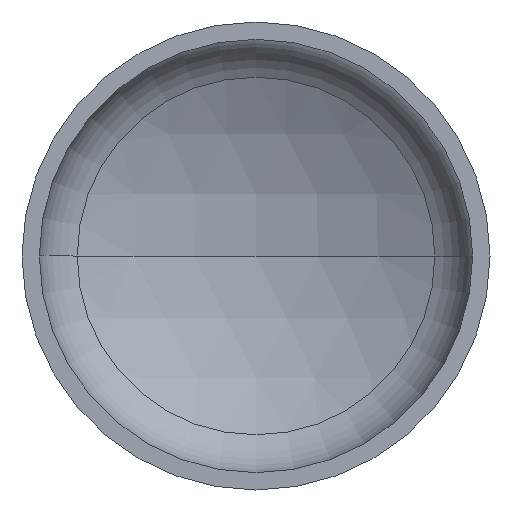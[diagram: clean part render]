
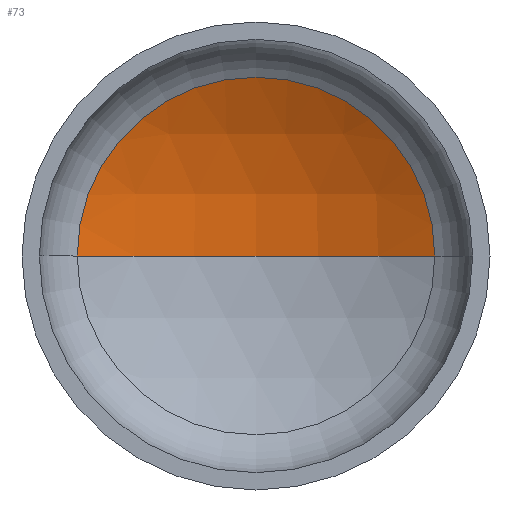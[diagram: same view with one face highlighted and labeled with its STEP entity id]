
A CAD part, front view. The second image highlights one B-rep face of the part: STEP entity #73.
In plain terms, the highlighted spherical face has radius 800 mm.
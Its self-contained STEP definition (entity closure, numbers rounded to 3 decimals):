
#14 = EDGE_LOOP ( 'NONE', ( #122, #64, #99 ) ) ;
#23 = VERTEX_POINT ( 'NONE', #352 ) ;
#25 = DIRECTION ( 'NONE',  ( 1., 0., 0. ) ) ;
#29 = AXIS2_PLACEMENT_3D ( 'NONE', #187, #199, #200 ) ;
#32 = AXIS2_PLACEMENT_3D ( 'NONE', #296, #149, #402 ) ;
#34 = AXIS2_PLACEMENT_3D ( 'NONE', #269, #338, #25 ) ;
#51 = VERTEX_POINT ( 'NONE', #282 ) ;
#63 = AXIS2_PLACEMENT_3D ( 'NONE', #242, #258, #224 ) ;
#64 = ORIENTED_EDGE ( 'NONE', *, *, #101, .T. ) ;
#73 = ADVANCED_FACE ( 'NONE', ( #132 ), #128, .F. ) ;
#99 = ORIENTED_EDGE ( 'NONE', *, *, #100, .T. ) ;
#100 = EDGE_CURVE ( 'NONE', #23, #51, #284, .T. ) ;
#101 = EDGE_CURVE ( 'NONE', #102, #23, #153, .T. ) ;
#102 = VERTEX_POINT ( 'NONE', #217 ) ;
#103 = EDGE_CURVE ( 'NONE', #102, #51, #222, .T. ) ;
#122 = ORIENTED_EDGE ( 'NONE', *, *, #103, .F. ) ;
#128 = SPHERICAL_SURFACE ( 'NONE', #63, 800. ) ;
#132 = FACE_OUTER_BOUND ( 'NONE', #14, .T. ) ;
#149 = DIRECTION ( 'NONE',  ( 0., 0., -1. ) ) ;
#153 = CIRCLE ( 'NONE', #32, 800. ) ;
#187 = CARTESIAN_POINT ( 'NONE',  ( 0., -446.711, 0. ) ) ;
#199 = DIRECTION ( 'NONE',  ( 0., 0., 1. ) ) ;
#200 = DIRECTION ( 'NONE',  ( 1., 0., 0. ) ) ;
#217 = CARTESIAN_POINT ( 'NONE',  ( 0., 353.289, 0. ) ) ;
#222 = CIRCLE ( 'NONE', #29, 800. ) ;
#224 = DIRECTION ( 'NONE',  ( -1., 0., 0. ) ) ;
#242 = CARTESIAN_POINT ( 'NONE',  ( 0., -446.711, 0. ) ) ;
#258 = DIRECTION ( 'NONE',  ( 0., 0., -1. ) ) ;
#269 = CARTESIAN_POINT ( 'NONE',  ( 0., 256.186, 0. ) ) ;
#282 = CARTESIAN_POINT ( 'NONE',  ( -382.016, 256.186, 0. ) ) ;
#284 = CIRCLE ( 'NONE', #34, 382.016 ) ;
#296 = CARTESIAN_POINT ( 'NONE',  ( 0., -446.711, 0. ) ) ;
#338 = DIRECTION ( 'NONE',  ( 0., -1., 0. ) ) ;
#352 = CARTESIAN_POINT ( 'NONE',  ( 382.016, 256.186, 0. ) ) ;
#402 = DIRECTION ( 'NONE',  ( -1., 0., 0. ) ) ;
